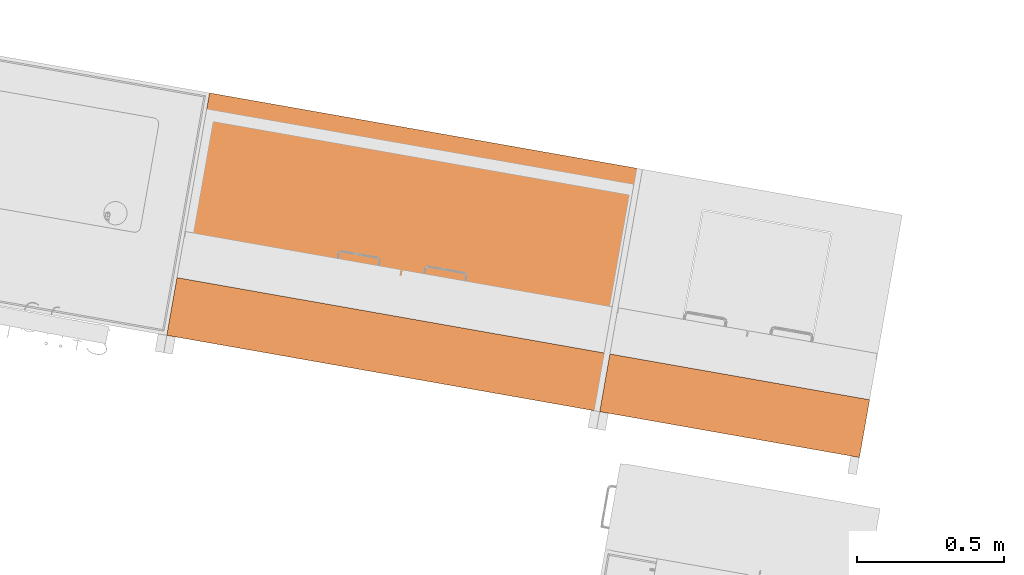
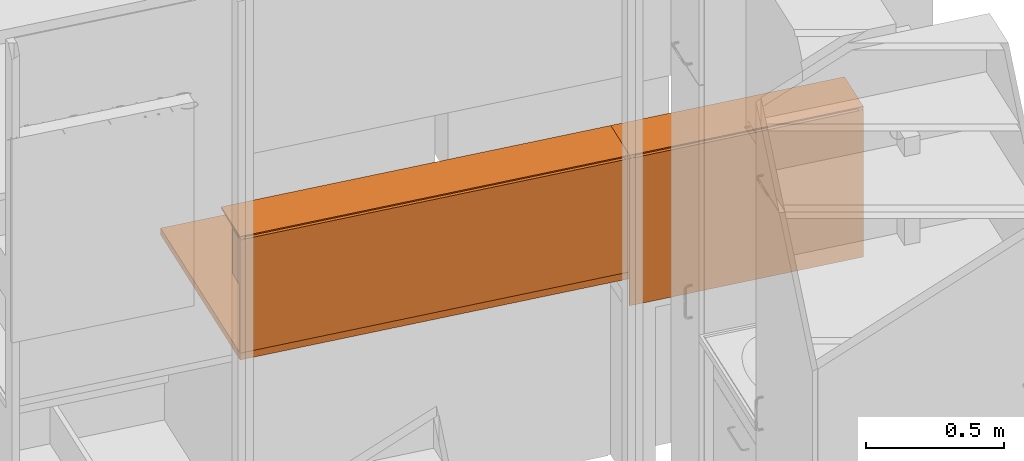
# One storey, part 35 of 43: 3 proxies.
"""IFC2X3 building model written with IfcOpenShell, lengths in metres."""

from ifc_helpers import new_model, entity, si_unit, converted_unit, derived_unit, direction, frame, frame_2d, origin, origin_2d_with_axis, place, context, subcontext, project, spatial, polyline, circle_curve, parameter, trimmed, segment, composite_curve, rectangle, outline, extrude, source, transform, mapped, material, material_list, type_object, type_shapes, element, save


model = new_model("IFC2X3")

# Units and contexts
model_context = context("Model", 3, precision=1e-05, world=origin(), true_north=direction((6.12303176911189e-17, 1.0)))
body_context = subcontext(model_context, "Body", "Model", "MODEL_VIEW")
ifc_project = project(units=[si_unit("LENGTHUNIT", "METRE"), si_unit("AREAUNIT", "SQUARE_METRE"), si_unit("VOLUMEUNIT", "CUBIC_METRE"), converted_unit("PLANEANGLEUNIT", "DEGREE", entity("IfcRatioMeasure", 0.0174532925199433), si_unit("PLANEANGLEUNIT", "RADIAN"), dimensions=[0, 0, 0, 0, 0, 0, 0]), si_unit("MASSUNIT", "GRAM", prefix="KILO"), derived_unit("MASSDENSITYUNIT", [(si_unit("MASSUNIT", "GRAM", prefix="KILO"), 1), (si_unit("LENGTHUNIT", "METRE"), -3)]), derived_unit("MOMENTOFINERTIAUNIT", [(si_unit("LENGTHUNIT", "METRE"), 4)]), si_unit("TIMEUNIT", "SECOND"), si_unit("FREQUENCYUNIT", "HERTZ"), si_unit("THERMODYNAMICTEMPERATUREUNIT", "DEGREE_CELSIUS"), derived_unit("THERMALTRANSMITTANCEUNIT", [(si_unit("MASSUNIT", "GRAM", prefix="KILO"), 1), (si_unit("THERMODYNAMICTEMPERATUREUNIT", "KELVIN"), -1), (si_unit("TIMEUNIT", "SECOND"), -3)]), derived_unit("VOLUMETRICFLOWRATEUNIT", [(si_unit("LENGTHUNIT", "METRE"), 3), (si_unit("TIMEUNIT", "SECOND"), -1)]), si_unit("ELECTRICCURRENTUNIT", "AMPERE"), si_unit("ELECTRICVOLTAGEUNIT", "VOLT"), si_unit("POWERUNIT", "WATT"), si_unit("FORCEUNIT", "NEWTON", prefix="KILO"), si_unit("ILLUMINANCEUNIT", "LUX"), si_unit("LUMINOUSFLUXUNIT", "LUMEN"), si_unit("LUMINOUSINTENSITYUNIT", "CANDELA"), derived_unit("USERDEFINED", [(si_unit("MASSUNIT", "GRAM", prefix="KILO"), -1), (si_unit("LENGTHUNIT", "METRE"), -2), (si_unit("TIMEUNIT", "SECOND"), 3), (si_unit("LUMINOUSFLUXUNIT", "LUMEN"), 1)]), derived_unit("LINEARVELOCITYUNIT", [(si_unit("LENGTHUNIT", "METRE"), 1), (si_unit("TIMEUNIT", "SECOND"), -1)]), si_unit("PRESSUREUNIT", "PASCAL"), derived_unit("USERDEFINED", [(si_unit("LENGTHUNIT", "METRE"), -2), (si_unit("MASSUNIT", "GRAM", prefix="KILO"), 1), (si_unit("TIMEUNIT", "SECOND"), -2)]), derived_unit("LINEARFORCEUNIT", [(si_unit("MASSUNIT", "GRAM", prefix="KILO"), 1), (si_unit("LENGTHUNIT", "METRE"), 1), (si_unit("TIMEUNIT", "SECOND"), -2), (si_unit("LENGTHUNIT", "METRE"), -1)]), derived_unit("PLANARFORCEUNIT", [(si_unit("MASSUNIT", "GRAM", prefix="KILO"), 1), (si_unit("LENGTHUNIT", "METRE"), 1), (si_unit("TIMEUNIT", "SECOND"), -2), (si_unit("LENGTHUNIT", "METRE"), -2)])], contexts=[model_context])

# Site, building, storey
site_placement = place(None, origin())
site = spatial("IfcSite", under=ifc_project, at=site_placement, Name="Default", CompositionType="ELEMENT")
building_placement = place(site_placement, origin())
building = spatial("IfcBuilding", under=site, at=building_placement, CompositionType="ELEMENT")
storey_placement = place(building_placement, frame((0.0, 0.0, 3.0)))
storey = spatial("IfcBuildingStorey", under=building, at=storey_placement, Name="01 OG", CompositionType="ELEMENT", Elevation=3.0)

# Proxies
ifc_material_1 = material(Name="dh_Weiß")
ifc_material_2 = material(Name="dh_Glas WHS")
ifc_material_3 = material(Name="dh_Blau")
ifc_material_list_1 = material_list([ifc_material_1, ifc_material_2, ifc_material_3])
ifc_material_list_2 = material_list([ifc_material_1, ifc_material_3, ifc_material_2])
building_element_proxy_type_1 = type_object("IfcBuildingElementProxyType", Name="dh_Medienwand WHA:150 Stehtisch", PredefinedType="NOTDEFINED", material=ifc_material_list_2)
shared_shape_1 = source(origin(), body_context, "Body", "SweptSolid", [
    extrude(outline(composite_curve([segment(trimmed(circle_curve(frame_2d((0.0, 0.0), x_axis=(-1.0, 0.0)), 0.01), [parameter(0.0)], [parameter(180.0)], True, "PARAMETER"), True, "CONTINUOUS"), segment(polyline([(0.01, 0.0), (-0.01, 0.0)]), True, "CONTINUOUS")], self_intersect=False)), frame((-0.589999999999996, 0.1, 1.40999999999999), z_axis=(0.0, -1.0, 0.0), x_axis=(1.0, 0.0, 0.0)), (0.0, 0.0, -1.0), 0.2),
    extrude(outline(composite_curve([segment(trimmed(circle_curve(origin_2d_with_axis(), 0.00999999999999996), [parameter(0.0)], [parameter(180.0)], True, "PARAMETER"), True, "CONTINUOUS"), segment(polyline([(-0.0099999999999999, 0.0), (0.00999999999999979, 0.0)]), True, "CONTINUOUS")], self_intersect=False)), frame((0.890000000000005, 0.1, 1.40999999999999), z_axis=(0.0, 1.0, 0.0), x_axis=(1.0, 0.0, 0.0)), (0.0, 0.0, 1.0), 0.2),
    extrude(rectangle(XDim=1.5, YDim=0.2, at=origin_2d_with_axis()), frame((0.150000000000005, 0.2, 1.40999999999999), z_axis=(0.0, 0.0, 1.0), x_axis=(-1.0, 0.0, 0.0)), (0.0, 0.0, 1.0), 0.00499999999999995),
    extrude(rectangle(XDim=0.00500000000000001, YDim=1.5, at=frame_2d((-3.38271077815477e-17, -5.55111512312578e-17), x_axis=(1.0, 0.0))), frame((0.15, 0.2975, 0.900000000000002), z_axis=(0.0, 0.0, 1.0), x_axis=(0.0, 1.0, 0.0)), (0.0, 0.0, 1.0), 0.299999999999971),
    extrude(rectangle(XDim=1.5, YDim=0.08, at=frame_2d((0.0, 3.46944695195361e-17), x_axis=(1.0, 0.0))), frame((0.15, 0.26, 1.20000000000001), z_axis=(0.0, 0.0, 1.0), x_axis=(-1.0, 0.0, 0.0)), (0.0, 0.0, 1.0), 0.199999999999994),
])
type_shapes(building_element_proxy_type_1, [shared_shape_1])
proxy_1_placement = place(storey_placement, frame((28.5801004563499, 13.4482875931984, 0.0), z_axis=(0.0, 0.0, 1.0), x_axis=(-0.984807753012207, 0.173648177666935, 0.0)))
element("IfcBuildingElementProxy", 1, at=proxy_1_placement, inside=storey, type_object=building_element_proxy_type_1, material=ifc_material_list_1, Name="dh_Medienwand WHA:150 Stehtisch", ObjectType="dh_Medienwand WHA:150 Stehtisch", context=body_context, shape_type="MappedRepresentation", body=[
    mapped(shared_shape_1, transform((0.0, 0.0, 0.0), scale=1.0)),
])
ifc_material_list_3 = material_list([ifc_material_1, ifc_material_2, ifc_material_3])
ifc_material_list_4 = material_list([ifc_material_2, ifc_material_1, ifc_material_3])
building_element_proxy_type_2 = type_object("IfcBuildingElementProxyType", Name="dh_Medienwand WHA:90 Sitztisch", PredefinedType="NOTDEFINED", material=ifc_material_list_4)
shared_shape_2 = source(origin(), body_context, "Body", "SweptSolid", [
    extrude(outline(composite_curve([segment(trimmed(circle_curve(frame_2d((0.0, 0.0), x_axis=(-1.0, 0.0)), 0.01), [parameter(0.0)], [parameter(180.0)], True, "PARAMETER"), True, "CONTINUOUS"), segment(polyline([(0.01, 0.0), (-0.01, 0.0)]), True, "CONTINUOUS")], self_intersect=False)), frame((-0.589999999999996, 0.1, 1.40999999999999), z_axis=(0.0, -1.0, 0.0), x_axis=(1.0, 0.0, 0.0)), (0.0, 0.0, -1.0), 0.2),
    extrude(outline(composite_curve([segment(trimmed(circle_curve(origin_2d_with_axis(), 0.00999999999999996), [parameter(0.0)], [parameter(180.0)], True, "PARAMETER"), True, "CONTINUOUS"), segment(polyline([(-0.0099999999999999, 0.0), (0.0099999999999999, 0.0)]), True, "CONTINUOUS")], self_intersect=False)), frame((0.290000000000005, 0.1, 1.40999999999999), z_axis=(0.0, 1.0, 0.0), x_axis=(1.0, 0.0, 0.0)), (0.0, 0.0, 1.0), 0.2),
    extrude(rectangle(XDim=0.9, YDim=0.2, at=origin_2d_with_axis()), frame((-0.149999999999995, 0.2, 1.40999999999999), z_axis=(0.0, 0.0, 1.0), x_axis=(-1.0, 0.0, 0.0)), (0.0, 0.0, 1.0), 0.00499999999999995),
    extrude(rectangle(XDim=0.00500000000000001, YDim=0.9, at=frame_2d((-3.38271077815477e-17, -5.55111512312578e-17), x_axis=(1.0, 0.0))), frame((-0.15, 0.2975, 0.750000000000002), z_axis=(0.0, 0.0, 1.0), x_axis=(0.0, 1.0, 0.0)), (0.0, 0.0, 1.0), 0.449999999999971),
    extrude(rectangle(XDim=0.9, YDim=0.08, at=frame_2d((0.0, 3.46944695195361e-17), x_axis=(1.0, 0.0))), frame((-0.15, 0.26, 1.20000000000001), z_axis=(0.0, 0.0, 1.0), x_axis=(-1.0, 0.0, 0.0)), (0.0, 0.0, 1.0), 0.199999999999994),
])
type_shapes(building_element_proxy_type_2, [shared_shape_2])
proxy_2_placement = place(storey_placement, frame((29.4664274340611, 13.2920042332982, 0.0), z_axis=(0.0, 0.0, 1.0), x_axis=(-0.984807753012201, 0.173648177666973, 0.0)))
element("IfcBuildingElementProxy", 2, at=proxy_2_placement, inside=storey, type_object=building_element_proxy_type_2, material=ifc_material_list_3, Name="dh_Medienwand WHA:90 Sitztisch", ObjectType="dh_Medienwand WHA:90 Sitztisch", context=body_context, shape_type="MappedRepresentation", body=[
    mapped(shared_shape_2, transform((0.0, 0.0, 0.0), scale=1.0)),
])
ifc_material_4 = material(Name="Arbeitsplatte mit fester Oberfläche")
ifc_material_5 = material(Name="Phenolharz")
ifc_material_list_5 = material_list([ifc_material_4, ifc_material_5])
ifc_material_list_6 = material_list([ifc_material_5, ifc_material_4])
building_element_proxy_type_3 = type_object("IfcBuildingElementProxyType", Name="dh_Tischplatte PH:TP PH", PredefinedType="NOTDEFINED", material=ifc_material_list_6)
shared_shape_3 = source(origin(), body_context, "Body", "SweptSolid", [
    extrude(rectangle(XDim=1.50000000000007, YDim=0.840000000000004, at=origin_2d_with_axis()), frame((0.0447003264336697, -0.420000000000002, 0.871999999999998), z_axis=(0.0, 0.0, 1.0), x_axis=(-1.0, 0.0, 0.0)), (0.0, 0.0, 1.0), 0.0260000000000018),
    extrude(rectangle(XDim=1.50000000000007, YDim=0.840000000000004, at=origin_2d_with_axis()), frame((0.0447003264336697, -0.420000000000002, 0.869999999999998), z_axis=(0.0, 0.0, 1.0), x_axis=(-1.0, 0.0, 0.0)), (0.0, 0.0, 1.0), 0.00199999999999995),
    extrude(rectangle(XDim=1.50000000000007, YDim=0.840000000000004, at=origin_2d_with_axis()), frame((0.0447003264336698, -0.420000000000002, 0.898), z_axis=(0.0, 0.0, 1.0), x_axis=(-1.0, 0.0, 0.0)), (0.0, 0.0, 1.0), 0.00200000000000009),
])
type_shapes(building_element_proxy_type_3, [shared_shape_3])
proxy_3_placement = place(storey_placement, frame((28.4243060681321, 13.1711303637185, 0.0), z_axis=(0.0, 0.0, 1.0), x_axis=(-0.984807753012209, 0.173648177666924, 0.0)))
element("IfcBuildingElementProxy", 3, at=proxy_3_placement, inside=storey, type_object=building_element_proxy_type_3, material=ifc_material_list_5, Name="dh_Tischplatte PH:TP PH", ObjectType="dh_Tischplatte PH:TP PH", context=body_context, shape_type="MappedRepresentation", body=[
    mapped(shared_shape_3, transform((0.0, 0.0, 0.0), scale=1.0)),
])

save(model, "model.ifc")
